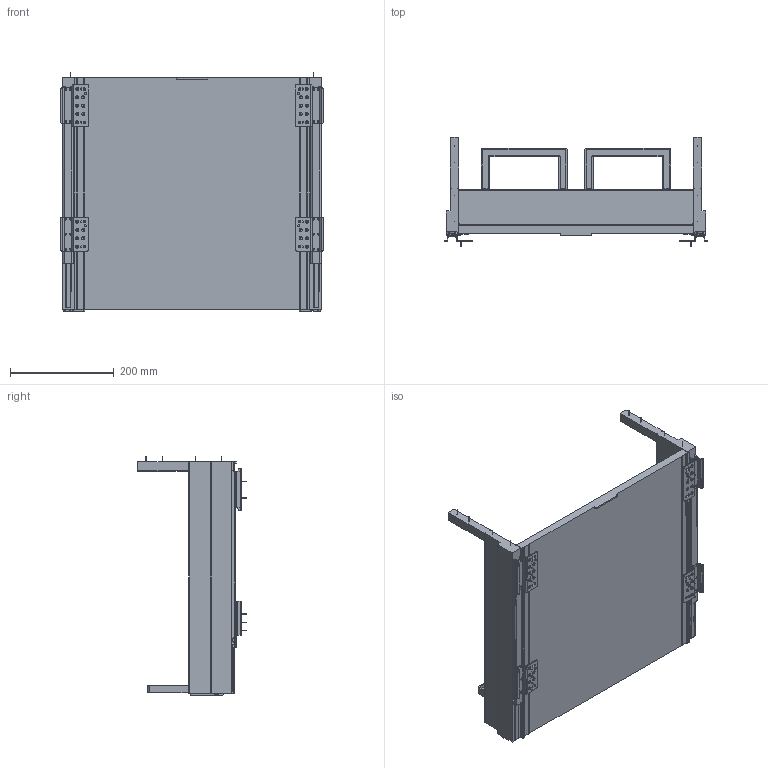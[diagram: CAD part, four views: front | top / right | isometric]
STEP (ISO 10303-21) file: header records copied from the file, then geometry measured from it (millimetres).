
FILE_DESCRIPTION((''),'2;1');
FILE_NAME('80_61_301','2024-08-30T09:52:51',('bru'),(''),'CREO PARAMETRIC BY PTC INC, 2022024','CREO PARAMETRIC BY PTC INC, 2022024','');
FILE_SCHEMA(('AUTOMOTIVE_DESIGN { 1 0 10303 214 1 1 1 1 }'));
Length unit declared in the file: millimetre
Products named in the file (1): 80_61_301
Bounding box: 506.5 x 211.06 x 461.2 mm (x, y, z)
Volume: 5377622.2 mm3; surface area: 907994 mm2
Topology: 15 solids, 15 shells, 1345 faces, 3705 edges, 2445 vertices
Faces by surface type: plane 672, cylinder 471, extrusion 90, torus 80, sphere 22, bspline 10
Entity records: 46711 total; most frequent: CARTESIAN_POINT 11588, ORIENTED_EDGE 7396, DIRECTION 7068, EDGE_CURVE 3698, VERTEX_POINT 2439, VECTOR 2365, AXIS2_PLACEMENT_3D 2350, LINE 2275
